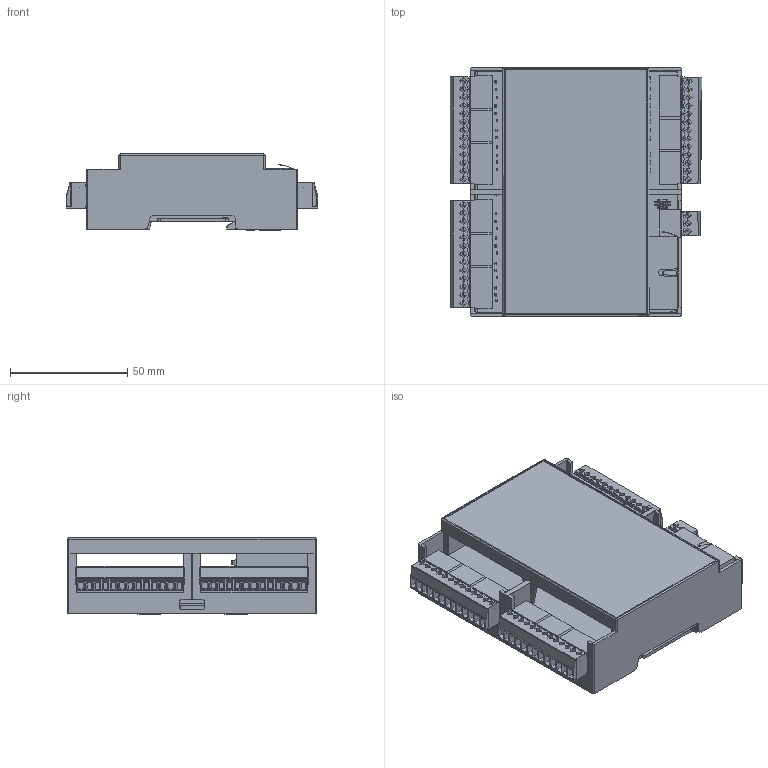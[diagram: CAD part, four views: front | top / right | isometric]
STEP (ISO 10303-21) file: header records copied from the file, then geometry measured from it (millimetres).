
FILE_DESCRIPTION(/* description */ ('Open CASCADE Model','CAx-IF Rec.Pracs.---Representation and Presentation of Product Manufacturing Information (PMI)---4.0---2014-10-13'),/* implementation_level */ '2;1');
FILE_NAME(/* name */ 'C:\Users\zambolin\Desktop\PRODOTTI\R-8AI-8DIDO\D0_(ESP32)\3D\R-8AI-8DIDO-2.stp',/* time_stamp */ '2024-01-17T09:21:39+01:00',/* author */ ('zambolin'),/* organization */ ('Open CASCADE'),/* preprocessor_version */ 'ST-DEVELOPER v18.1',/* originating_system */ 'Autodesk Inventor 2022',/* authorisation */ 'Unknown');
FILE_SCHEMA (('AP242_MANAGED_MODEL_BASED_3D_ENGINEERING_MIM_LF { 1 0 10303 442 1 1 4 }'));
Products named in the file (87): CS05663_R-8AI-8DIDO-2; Board; Open CASCADE STEP translator 7.5 2.1.1; EC1; J8064D628ANL_PULSE; TP29; 6325243440; Cylinder; SW3; SW2; 204-211; SW1; DIPSW 1.27x2 DHN-02F; User Library-DHN-02F_750265192; User Library-DHN-02F_Open_CASCADE_STEP_translator_6.8_25.1; User Library-DHN-02F_Body; User Library-DHN-02F_Open_CASCADE_STEP_translator_6.8_25.2.1; User Library-DHN-02F_Leader; R129_!; R128_1; R127_1; R126_1; R125_1; R124_1; R123_1; R122_1; 0805 SMD Resistor; R113_1; 0402 SMD Resistor; DL8; DL7; DL6; DL5_1; DL4; DL4_1; DL3; DL3_1; DL2; DL2_1; DL1_1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
Assembly tree (155 placements, depth 6):
  CS05663_R-8AI-8DIDO-2
    Board
      Open CASCADE STEP translator 7.5 2.1.1
    EC1
      J8064D628ANL_PULSE
    TP29
      6325243440
        Cylinder
    SW3
      204-211  x4
    SW2
      204-211  x4
    SW1
      DIPSW 1.27x2 DHN-02F
        User Library-DHN-02F_750265192
          User Library-DHN-02F_Open_CASCADE_STEP_translator_6.8_25.1
          User Library-DHN-02F_Body
            User Library-DHN-02F_Open_CASCADE_STEP_translator_6.8_25.2.1
          User Library-DHN-02F_Leader  x4
    R129_!
      0805 SMD Resistor
    R128_1
      0805 SMD Resistor
    R127_1
      0805 SMD Resistor
    R126_1
      0805 SMD Resistor
    R125_1
      0805 SMD Resistor
    R124_1
      0805 SMD Resistor
    R123_1
      0805 SMD Resistor
    R122_1
      0805 SMD Resistor
    R113_1
      0402 SMD Resistor
    DL8
      Topled0603_GRE
    DL7
      Topled0603_GRE
    DL6
      Topled0603_GRE
    DL5_1
      Topled0603_GRE
    DL4
      Topled0603_GRE
    DL4_1
      Topled0603_GRE
    DL3
      Topled0603_GRE
    DL3_1
      Topled0603_GRE
    DL2
      Topled0603_GRE
    DL2_1
      Topled0603_GRE
    DL1_1
      Topled0603_GRE
    CN10
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Bounding box: 107.42 x 106.32 x 32.56 mm (x, y, z)
Volume: 87548.1 mm3; surface area: 118837 mm2
Topology: 230 solids, 231 shells, 11467 faces, 29268 edges, 18474 vertices
Faces by surface type: plane 7932, cylinder 1852, bspline 1005, sphere 357, torus 195, cone 126
Full cylindrical faces by diameter (mm): 1.2 x42, 1.4 x2, 1.7 x1, 1.8 x42, 2.8 x42, 3 x42
Entity records: 122805 total; most frequent: CARTESIAN_POINT 30660, ORIENTED_EDGE 18750, DIRECTION 17897, EDGE_CURVE 9376, LINE 7217, VECTOR 7217, VERTEX_POINT 6057, AXIS2_PLACEMENT_3D 5340
